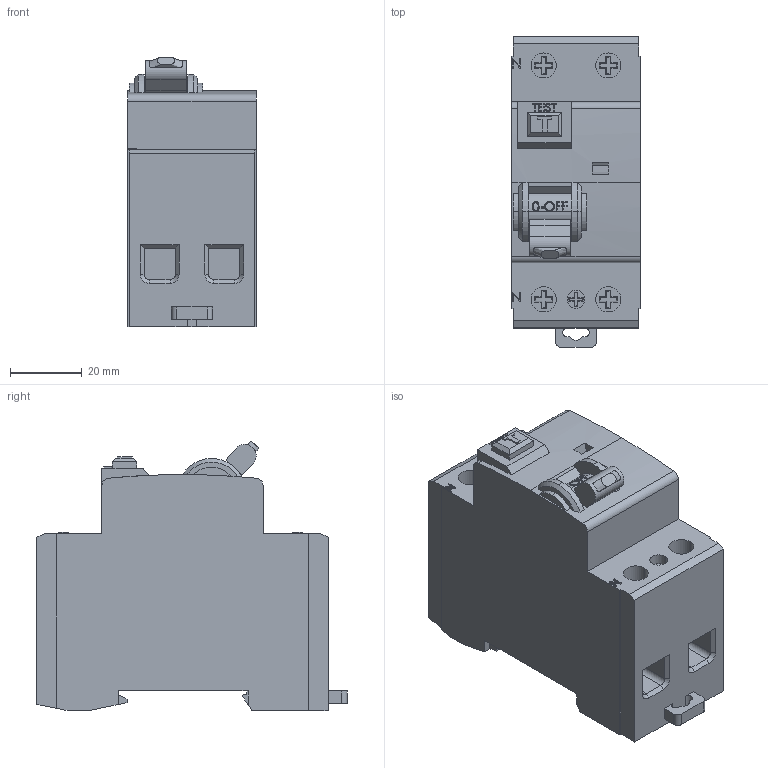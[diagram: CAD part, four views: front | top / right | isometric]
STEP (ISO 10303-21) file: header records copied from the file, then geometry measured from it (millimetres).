
FILE_DESCRIPTION (( 'STEP AP203' ), '1' );
FILE_NAME ('DRA25-203.STEP', '2018-05-11T12:45:01', ( '' ), ( '' ), 'SwSTEP 2.0', 'SolidWorks 2012', '' );
FILE_SCHEMA (( 'CONFIG_CONTROL_DESIGN' ));
Length unit declared in the file: millimetre
Products named in the file (1): DRA25-203
Bounding box: 36 x 86.6 x 75.36 mm (x, y, z)
Volume: 157879.1 mm3; surface area: 24263.1 mm2
Topology: 2 solids, 2 shells, 391 faces, 1043 edges, 685 vertices
Faces by surface type: plane 295, cylinder 51, bspline 34, cone 11
Entity records: 15854 total; most frequent: CARTESIAN_POINT 6189, ORIENTED_EDGE 2086, DIRECTION 1795, EDGE_CURVE 1043, LINE 813, VECTOR 813, VERTEX_POINT 685, AXIS2_PLACEMENT_3D 491
